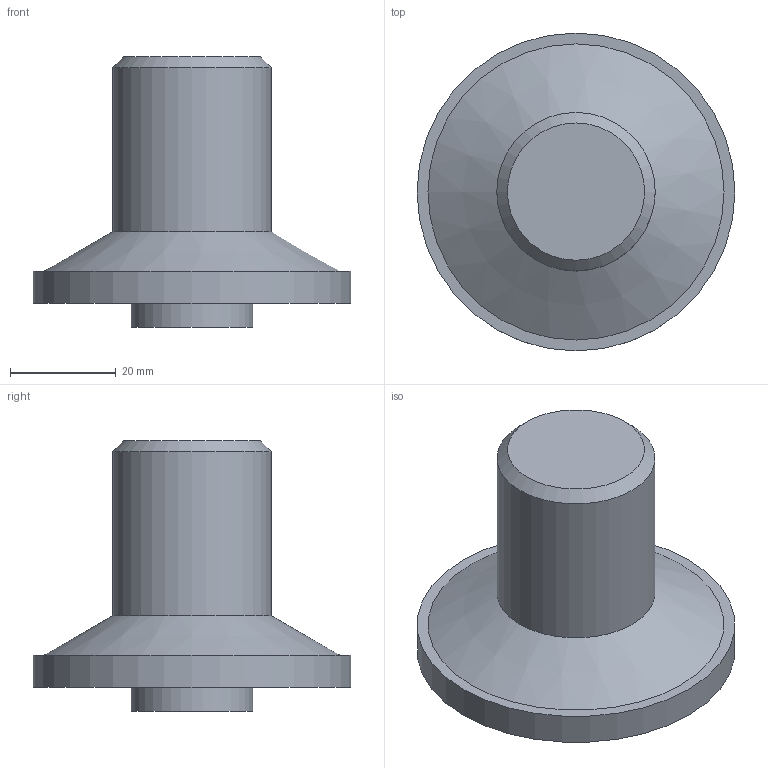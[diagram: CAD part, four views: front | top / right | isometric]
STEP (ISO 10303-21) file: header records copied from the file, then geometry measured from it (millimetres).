
FILE_DESCRIPTION(/* description */ (''),/* implementation_level */ '2;1');
FILE_NAME(/* name */ 'LM-5924-2340-03-A_EQ500 BOLT-IN FOOT.stp',/* time_stamp */ '2024-05-02T14:17:10+01:00',/* author */ (''),/* organization */ (''),/* preprocessor_version */ 'ST-DEVELOPER v16.7',/* originating_system */ 'SIEMENS PLM Software NX 1946',/* authorisation */ '');
FILE_SCHEMA (('AUTOMOTIVE_DESIGN { 1 0 10303 214 3 1 1 1 }'));
Length unit declared in the file: millimetre
Products named in the file (1): LM-5924-2340-03-A_EQ500 BOLT-IN FOOT
Bounding box: 60 x 60 x 51 mm (x, y, z)
Volume: 52405.6 mm3; surface area: 10549.9 mm2
Topology: 1 solids, 1 shells, 11 faces, 16 edges, 10 vertices
Faces by surface type: plane 5, cylinder 4, cone 2
Full cylindrical faces by diameter (mm): 13 x1, 23 x1, 29.9 x1, 60 x1
Entity records: 238 total; most frequent: DIRECTION 44, CARTESIAN_POINT 32, AXIS2_PLACEMENT_3D 22, EDGE_LOOP 20, ORIENTED_EDGE 20, FACE_BOUND 18, ADVANCED_FACE 11, VERTEX_POINT 10
